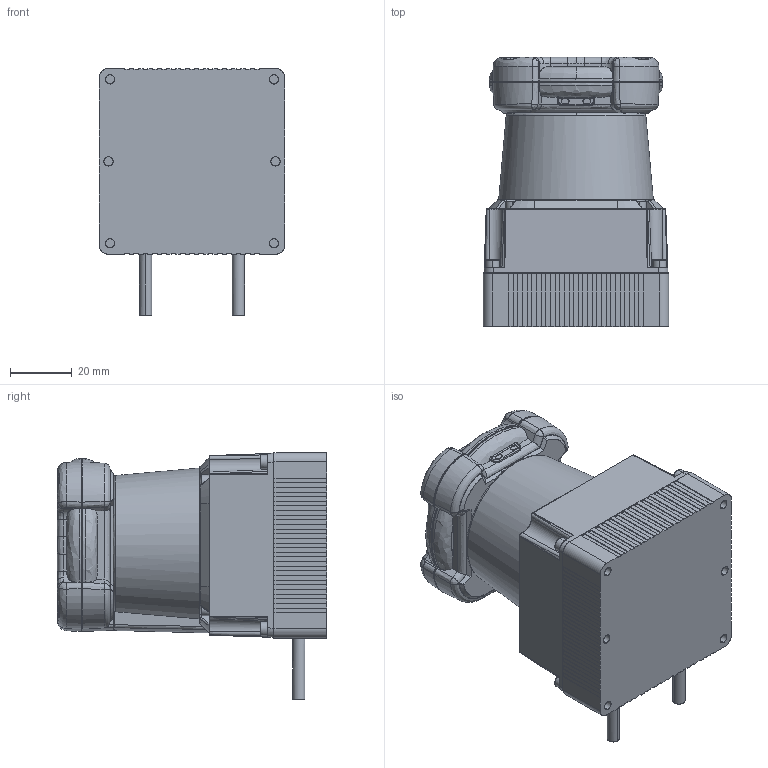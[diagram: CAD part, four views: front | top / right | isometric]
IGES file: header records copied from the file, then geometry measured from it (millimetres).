
Start section: SolidWorks IGES file using analytic representation for surfaces
Global section: file name: C:\Documents and Settings\gijutubu\デスクトップ\UTM 3D  DATA.IGS; native system: SolidWorks 2008; preprocessor: SolidWorks 2008; author: gijutubu; date: 080418.133051; units: millimetre
Bounding box: 60 x 87 x 79.8 mm (x, y, z)
Surface area: 28425.1 mm2 (no closed solid volume)
Topology: 0 solids, 0 shells, 1098 faces, 9616 edges, 9592 vertices
Faces by surface type: bspline 823, revolution 275
